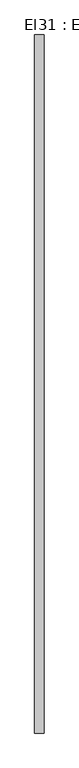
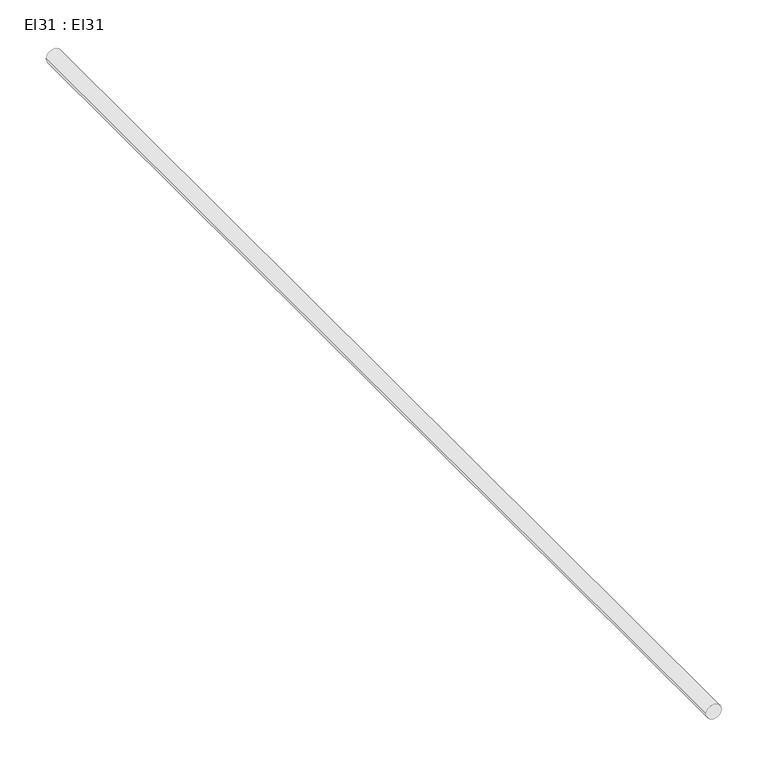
"""IFC4 building model written with IfcOpenShell, lengths in millimetres: cable carrier segment geometry, El31 : El31."""

from ifc_helpers import new_model, si_unit, point, frame, frame_2d, origin, place, context, project, spatial, circle_curve, trimmed, segment, composite_curve, outline, extrude, source, transform, mapped, element, save


def el31_el31_ef7f8c8f(model_context):
    return source(origin(), model_context, "Body", "SweptSolid", [
        extrude(outline(composite_curve([segment(trimmed(circle_curve(frame_2d((2950.0, 5250.0)), 9.5), [point((2950.0, 5240.5))], [point((2950.0, 5259.5))], False, "CARTESIAN"), True, "CONTINUOUS"), segment(trimmed(circle_curve(frame_2d((2950.0, 5250.0)), 9.5), [point((2950.0, 5259.5))], [point((2950.0, 5240.5))], False, "CARTESIAN"), True, "CONTINUOUS")], self_intersect=False)), frame((0.0, 16181.3, 0.0), z_axis=(0.0, 1.0, 0.0), x_axis=(0.0, 0.0, 1.0)), (0.0, 0.0, 1.0), 1420.0),
    ])


if __name__ == "__main__":
    model = new_model("IFC4")
    model_context = context("Model", 3, world=origin())
    ifc_project = project(units=[si_unit("LENGTHUNIT", "METRE", prefix="MILLI")], contexts=[model_context])
    site = spatial("IfcSite", under=ifc_project)
    building = spatial("IfcBuilding", under=site)
    placement = place(None, origin())
    el31_el31_shape = el31_el31_ef7f8c8f(model_context)
    element("IfcCableCarrierSegment", 1, ObjectType="El31 : El31", at=placement, inside=building, context=model_context, shape_type="MappedRepresentation", body=[
        mapped(el31_el31_shape, transform((0.0, 0.0, 0.0), x_axis=(1.0, 0.0, 0.0), y_axis=(0.0, 1.0, 0.0), z_axis=(0.0, 0.0, 1.0))),
    ])
    save(model, "model.ifc")
